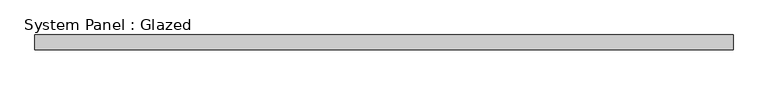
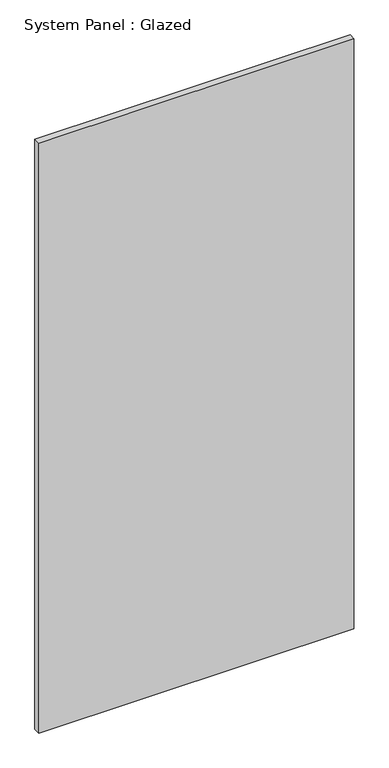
"""IFC4 building model written with IfcOpenShell, lengths in millimetres: plate geometry, System Panel : Glazed."""

from ifc_helpers import new_model, si_unit, origin, origin_with_axes, place, context, project, spatial, polyline, outline, extrude, source, transform, mapped, element, save


def system_panel_glazed_ea4c2e61(model_context):
    return source(origin(), model_context, "Body", "SweptSolid", [
        extrude(outline(polyline([(587.4999999, 24.5), (-587.4999999, 24.5), (-587.4999999, 49.5), (587.4999999, 49.5), (587.4999999, 24.5)])), origin_with_axes(), (0.0, 0.0, 1.0), 2325.0),
    ])


if __name__ == "__main__":
    model = new_model("IFC4")
    model_context = context("Model", 3, world=origin())
    ifc_project = project(units=[si_unit("LENGTHUNIT", "METRE", prefix="MILLI")], contexts=[model_context])
    site = spatial("IfcSite", under=ifc_project)
    building = spatial("IfcBuilding", under=site)
    placement = place(None, origin())
    system_panel_glazed_shape = system_panel_glazed_ea4c2e61(model_context)
    element("IfcPlate", 1, ObjectType="System Panel : Glazed", at=placement, inside=building, context=model_context, shape_type="MappedRepresentation", body=[
        mapped(system_panel_glazed_shape, transform((0.0, 0.0, 0.0), x_axis=(1.0, 0.0, 0.0), y_axis=(0.0, 1.0, 0.0), z_axis=(0.0, 0.0, 1.0))),
    ])
    save(model, "model.ifc")
